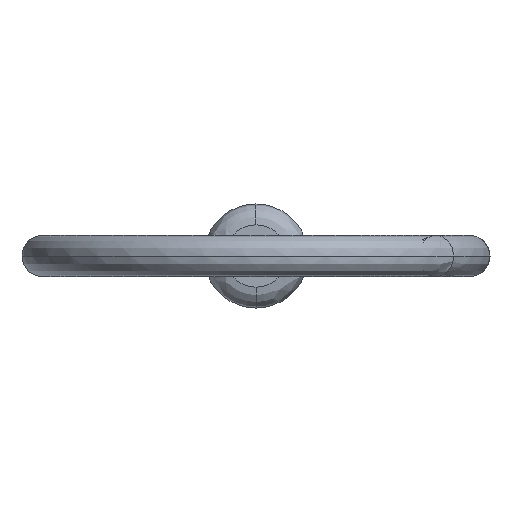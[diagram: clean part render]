
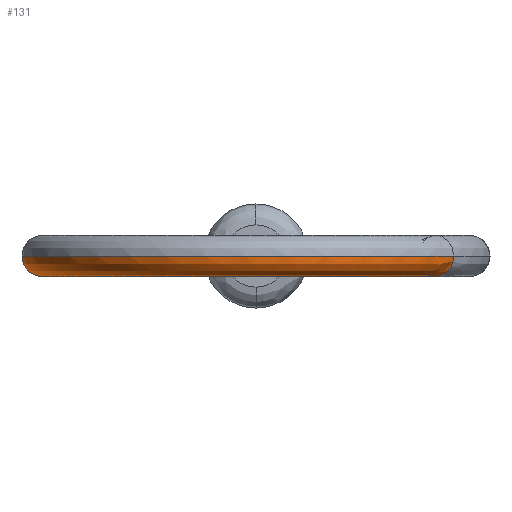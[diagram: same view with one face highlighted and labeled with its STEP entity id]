
A CAD part, left-side view. The second image highlights one B-rep face of the part: STEP entity #131.
In plain terms, the highlighted free-form (B-spline) face has degree [3, 3] with [7, 4] control points.
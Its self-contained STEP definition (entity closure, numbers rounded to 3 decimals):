
#44 = VERTEX_POINT ( 'NONE', #1362 ) ;
#51 = VERTEX_POINT ( 'NONE', #1498 ) ;
#62 = EDGE_CURVE ( 'NONE', #51, #44, #552, .T. ) ;
#113 = EDGE_LOOP ( 'NONE', ( #1822, #1800, #1765, #1338 ) ) ;
#131 = ADVANCED_FACE ( 'NONE', ( #486 ), #487, .F. ) ;
#146 = VERTEX_POINT ( 'NONE', #807 ) ;
#486 = FACE_OUTER_BOUND ( 'NONE', #113, .T. ) ;
#487 =( BOUNDED_SURFACE ( )  B_SPLINE_SURFACE ( 3, 3, ( 
 ( #488, #489, #490, #491 ),
 ( #492, #493, #494, #495 ),
 ( #496, #498, #499, #500 ),
 ( #501, #502, #503, #504 ),
 ( #505, #506, #507, #508 ),
 ( #509, #510, #511, #512 ),
 ( #513, #517, #518, #519 ) ),
 .UNSPECIFIED., .F., .F., .F. ) 
 B_SPLINE_SURFACE_WITH_KNOTS ( ( 4, 3, 4 ),
 ( 4, 4 ),
 ( 0.021, 0.5, 0.979 ),
 ( 0., 1. ),
 .UNSPECIFIED. ) 
 GEOMETRIC_REPRESENTATION_ITEM ( )  RATIONAL_B_SPLINE_SURFACE ( (
 ( 0.974, 0.325, 0.325, 0.974),
 ( 0.79, 0.263, 0.263, 0.79),
 ( 0.799, 0.266, 0.266, 0.799),
 ( 1., 0.333, 0.333, 1.),
 ( 0.799, 0.266, 0.266, 0.799),
 ( 0.79, 0.263, 0.263, 0.79),
 ( 0.974, 0.325, 0.325, 0.974) ) ) 
 REPRESENTATION_ITEM ( '' )  SURFACE ( )  );
#488 = CARTESIAN_POINT ( 'NONE',  ( -283.782, 7.803, 0. ) ) ;
#489 = CARTESIAN_POINT ( 'NONE',  ( -299.387, 17.739, 0. ) ) ;
#490 = CARTESIAN_POINT ( 'NONE',  ( -309.323, 2.134, 0. ) ) ;
#491 = CARTESIAN_POINT ( 'NONE',  ( -293.718, -7.803, 0. ) ) ;
#492 = CARTESIAN_POINT ( 'NONE',  ( -283.782, 7.803, -0.589 ) ) ;
#493 = CARTESIAN_POINT ( 'NONE',  ( -299.387, 17.739, -0.589 ) ) ;
#494 = CARTESIAN_POINT ( 'NONE',  ( -309.323, 2.134, -0.589 ) ) ;
#495 = CARTESIAN_POINT ( 'NONE',  ( -293.718, -7.803, -0.589 ) ) ;
#496 = CARTESIAN_POINT ( 'NONE',  ( -283.558, 8.155, -1. ) ) ;
#498 = CARTESIAN_POINT ( 'NONE',  ( -299.867, 18.539, -1. ) ) ;
#499 = CARTESIAN_POINT ( 'NONE',  ( -310.252, 2.23, -1. ) ) ;
#500 = CARTESIAN_POINT ( 'NONE',  ( -293.942, -8.155, -1. ) ) ;
#501 = CARTESIAN_POINT ( 'NONE',  ( -283.245, 8.646, -1. ) ) ;
#502 = CARTESIAN_POINT ( 'NONE',  ( -300.537, 19.656, -1. ) ) ;
#503 = CARTESIAN_POINT ( 'NONE',  ( -311.547, 2.364, -1. ) ) ;
#504 = CARTESIAN_POINT ( 'NONE',  ( -294.255, -8.646, -1. ) ) ;
#505 = CARTESIAN_POINT ( 'NONE',  ( -282.932, 9.138, -1. ) ) ;
#506 = CARTESIAN_POINT ( 'NONE',  ( -301.207, 20.774, -1. ) ) ;
#507 = CARTESIAN_POINT ( 'NONE',  ( -312.843, 2.499, -1. ) ) ;
#508 = CARTESIAN_POINT ( 'NONE',  ( -294.568, -9.138, -1. ) ) ;
#509 = CARTESIAN_POINT ( 'NONE',  ( -282.708, 9.49, -0.589 ) ) ;
#510 = CARTESIAN_POINT ( 'NONE',  ( -301.687, 21.574, -0.589 ) ) ;
#511 = CARTESIAN_POINT ( 'NONE',  ( -313.772, 2.595, -0.589 ) ) ;
#512 = CARTESIAN_POINT ( 'NONE',  ( -294.792, -9.49, -0.589 ) ) ;
#513 = CARTESIAN_POINT ( 'NONE',  ( -282.708, 9.49, 0. ) ) ;
#517 = CARTESIAN_POINT ( 'NONE',  ( -301.687, 21.574, 0. ) ) ;
#518 = CARTESIAN_POINT ( 'NONE',  ( -313.772, 2.595, 0. ) ) ;
#519 = CARTESIAN_POINT ( 'NONE',  ( -294.792, -9.49, 0. ) ) ;
#552 = CIRCLE ( 'NONE', #553, 11.25 ) ;
#553 = AXIS2_PLACEMENT_3D ( 'NONE', #554, #555, #556 ) ;
#554 = CARTESIAN_POINT ( 'NONE',  ( -288.75, 0., 0. ) ) ;
#555 = DIRECTION ( 'NONE',  ( 0., 0., -1. ) ) ;
#556 = DIRECTION ( 'NONE',  ( -0.537, -0.844, 0. ) ) ;
#807 = CARTESIAN_POINT ( 'NONE',  ( -293.718, -7.803, 0. ) ) ;
#942 = CARTESIAN_POINT ( 'NONE',  ( -283.782, 7.803, 0. ) ) ;
#1102 = CIRCLE ( 'NONE', #1103, 9.25 ) ;
#1103 = AXIS2_PLACEMENT_3D ( 'NONE', #1104, #1105, #1106 ) ;
#1104 = CARTESIAN_POINT ( 'NONE',  ( -288.75, 0., 0. ) ) ;
#1105 = DIRECTION ( 'NONE',  ( 0., 0., 1. ) ) ;
#1106 = DIRECTION ( 'NONE',  ( -0.537, -0.844, 0. ) ) ;
#1320 =( BOUNDED_CURVE ( )  B_SPLINE_CURVE ( 3, ( #1321, #1322, #1323, #1324, #1325, #1326, #1327 ),
 .UNSPECIFIED., .F., .T. ) 
 B_SPLINE_CURVE_WITH_KNOTS ( ( 4, 3, 4 ),
 ( 0.021, 0.5, 0.979 ),
 .UNSPECIFIED. ) 
 CURVE ( )  GEOMETRIC_REPRESENTATION_ITEM ( )  RATIONAL_B_SPLINE_CURVE ( ( 0.974, 0.79, 0.799, 1., 0.799, 0.79, 0.974 ) ) 
 REPRESENTATION_ITEM ( '' )  );
#1321 = CARTESIAN_POINT ( 'NONE',  ( -293.718, -7.803, 0. ) ) ;
#1322 = CARTESIAN_POINT ( 'NONE',  ( -293.718, -7.803, -0.589 ) ) ;
#1323 = CARTESIAN_POINT ( 'NONE',  ( -293.942, -8.155, -1. ) ) ;
#1324 = CARTESIAN_POINT ( 'NONE',  ( -294.255, -8.646, -1. ) ) ;
#1325 = CARTESIAN_POINT ( 'NONE',  ( -294.568, -9.138, -1. ) ) ;
#1326 = CARTESIAN_POINT ( 'NONE',  ( -294.792, -9.49, -0.589 ) ) ;
#1327 = CARTESIAN_POINT ( 'NONE',  ( -294.792, -9.49, 0. ) ) ;
#1338 = ORIENTED_EDGE ( 'NONE', *, *, #1375, .T. ) ;
#1362 = CARTESIAN_POINT ( 'NONE',  ( -282.708, 9.49, 0. ) ) ;
#1375 = EDGE_CURVE ( 'NONE', #44, #1818, #1481, .T. ) ;
#1481 = CIRCLE ( 'NONE', #1482, 1. ) ;
#1482 = AXIS2_PLACEMENT_3D ( 'NONE', #1483, #1484, #1485 ) ;
#1483 = CARTESIAN_POINT ( 'NONE',  ( -283.245, 8.646, 0. ) ) ;
#1484 = DIRECTION ( 'NONE',  ( -0.844, 0.537, 0. ) ) ;
#1485 = DIRECTION ( 'NONE',  ( -0.537, -0.844, 0. ) ) ;
#1498 = CARTESIAN_POINT ( 'NONE',  ( -294.792, -9.49, 0. ) ) ;
#1765 = ORIENTED_EDGE ( 'NONE', *, *, #62, .T. ) ;
#1782 = EDGE_CURVE ( 'NONE', #146, #51, #1320, .T. ) ;
#1800 = ORIENTED_EDGE ( 'NONE', *, *, #1782, .T. ) ;
#1818 = VERTEX_POINT ( 'NONE', #942 ) ;
#1822 = ORIENTED_EDGE ( 'NONE', *, *, #1827, .T. ) ;
#1827 = EDGE_CURVE ( 'NONE', #1818, #146, #1102, .T. ) ;
